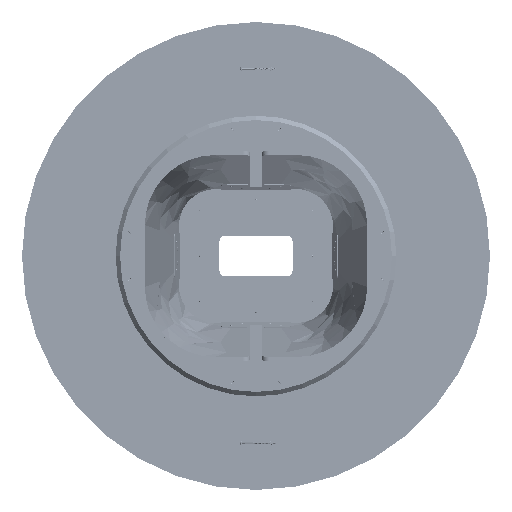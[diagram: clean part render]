
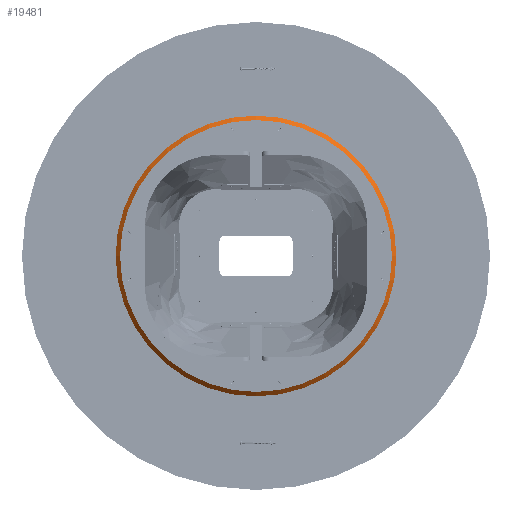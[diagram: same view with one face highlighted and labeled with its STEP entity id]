
A CAD part, front view. The second image highlights one B-rep face of the part: STEP entity #19481.
In plain terms, the highlighted conical face has half-angle 45 degrees and reference radius 600 mm.
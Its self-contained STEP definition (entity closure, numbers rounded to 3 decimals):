
#573 = FACE_BOUND ( 'NONE', #18313, .T. ) ;
#980 = DIRECTION ( 'NONE',  ( 0., 1., 0. ) ) ;
#6612 = VERTEX_POINT ( 'NONE', #21736 ) ;
#6741 = DIRECTION ( 'NONE',  ( 0., -1., 0. ) ) ;
#11330 = DIRECTION ( 'NONE',  ( 0., 0., 1. ) ) ;
#12303 = CIRCLE ( 'NONE', #21033, 581. ) ;
#12813 = DIRECTION ( 'NONE',  ( 0., 0., 1. ) ) ;
#13375 = CARTESIAN_POINT ( 'NONE',  ( 0., 9.5, 0. ) ) ;
#18313 = EDGE_LOOP ( 'NONE', ( #19376 ) ) ;
#19322 = AXIS2_PLACEMENT_3D ( 'NONE', #23970, #40005, #11330 ) ;
#19376 = ORIENTED_EDGE ( 'NONE', *, *, #24072, .F. ) ;
#19481 = ADVANCED_FACE ( 'NONE', ( #573, #36554 ), #19628, .T. ) ;
#19628 = CONICAL_SURFACE ( 'NONE', #26358, 600., 0.785 ) ;
#21033 = AXIS2_PLACEMENT_3D ( 'NONE', #35586, #6741, #12813 ) ;
#21736 = CARTESIAN_POINT ( 'NONE',  ( 0., -9.5, 581. ) ) ;
#22930 = VERTEX_POINT ( 'NONE', #35818 ) ;
#23257 = DIRECTION ( 'NONE',  ( 0., 0., 1. ) ) ;
#23970 = CARTESIAN_POINT ( 'NONE',  ( 0., 9.5, 0. ) ) ;
#24072 = EDGE_CURVE ( 'NONE', #6612, #6612, #12303, .T. ) ;
#26358 = AXIS2_PLACEMENT_3D ( 'NONE', #13375, #980, #23257 ) ;
#30193 = ORIENTED_EDGE ( 'NONE', *, *, #38987, .F. ) ;
#35586 = CARTESIAN_POINT ( 'NONE',  ( 0., -9.5, 0. ) ) ;
#35818 = CARTESIAN_POINT ( 'NONE',  ( 0., 9.5, 600. ) ) ;
#36067 = EDGE_LOOP ( 'NONE', ( #30193 ) ) ;
#36554 = FACE_OUTER_BOUND ( 'NONE', #36067, .T. ) ;
#38198 = CIRCLE ( 'NONE', #19322, 600. ) ;
#38987 = EDGE_CURVE ( 'NONE', #22930, #22930, #38198, .T. ) ;
#40005 = DIRECTION ( 'NONE',  ( 0., 1., 0. ) ) ;
